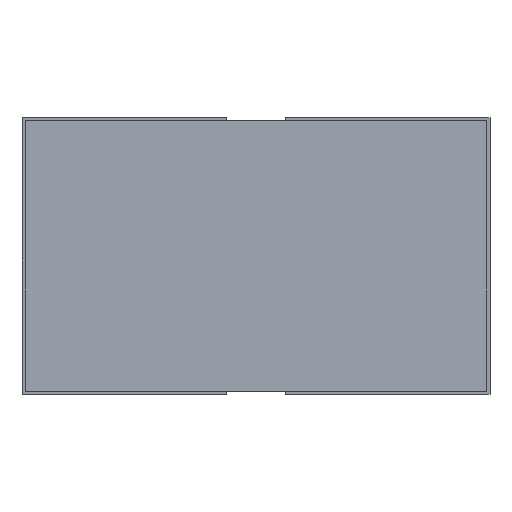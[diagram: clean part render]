
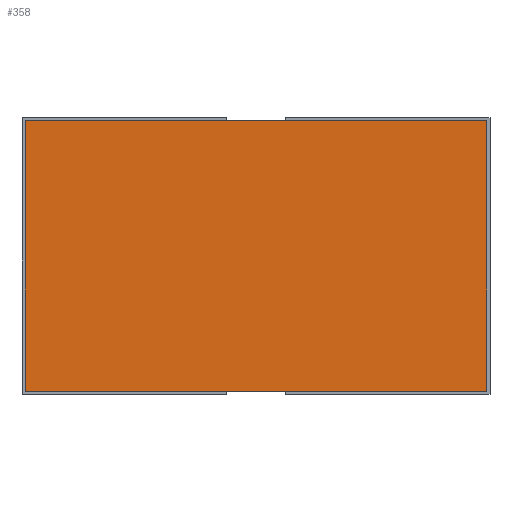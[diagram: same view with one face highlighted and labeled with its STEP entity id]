
A CAD part, top view. The second image highlights one B-rep face of the part: STEP entity #358.
In plain terms, the highlighted planar face has unit normal (0, 0, 1).
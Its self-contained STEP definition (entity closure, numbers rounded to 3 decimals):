
#32=FACE_OUTER_BOUND('',#50,.T.);
#50=EDGE_LOOP('',(#319,#320,#321,#322));
#71=LINE('',#521,#119);
#77=LINE('',#532,#125);
#97=LINE('',#572,#145);
#98=LINE('',#574,#146);
#119=VECTOR('',#427,10.);
#125=VECTOR('',#435,10.);
#145=VECTOR('',#471,10.);
#146=VECTOR('',#474,10.);
#161=VERTEX_POINT('',#518);
#162=VERTEX_POINT('',#520);
#166=VERTEX_POINT('',#530);
#178=VERTEX_POINT('',#570);
#199=EDGE_CURVE('',#161,#162,#71,.T.);
#205=EDGE_CURVE('',#166,#161,#77,.T.);
#225=EDGE_CURVE('',#166,#178,#97,.T.);
#226=EDGE_CURVE('',#178,#162,#98,.T.);
#319=ORIENTED_EDGE('',*,*,#225,.T.);
#320=ORIENTED_EDGE('',*,*,#226,.T.);
#321=ORIENTED_EDGE('',*,*,#199,.F.);
#322=ORIENTED_EDGE('',*,*,#205,.F.);
#340=PLANE('',#390);
#358=ADVANCED_FACE('',(#32),#340,.T.);
#390=AXIS2_PLACEMENT_3D('',#575,#475,#476);
#427=DIRECTION('',(0.,1.,0.));
#435=DIRECTION('',(-1.,0.,0.));
#471=DIRECTION('',(0.,1.,0.));
#474=DIRECTION('',(-1.,0.,0.));
#475=DIRECTION('center_axis',(0.,0.,1.));
#476=DIRECTION('ref_axis',(1.,0.,0.));
#518=CARTESIAN_POINT('',(-3.5,-2.05,0.4));
#520=CARTESIAN_POINT('',(-3.5,2.05,0.4));
#521=CARTESIAN_POINT('',(-3.5,0.,0.4));
#530=CARTESIAN_POINT('',(3.5,-2.05,0.4));
#532=CARTESIAN_POINT('',(0.,-2.05,0.4));
#570=CARTESIAN_POINT('',(3.5,2.05,0.4));
#572=CARTESIAN_POINT('',(3.5,0.,0.4));
#574=CARTESIAN_POINT('',(0.,2.05,0.4));
#575=CARTESIAN_POINT('Origin',(0.,0.,0.4));
